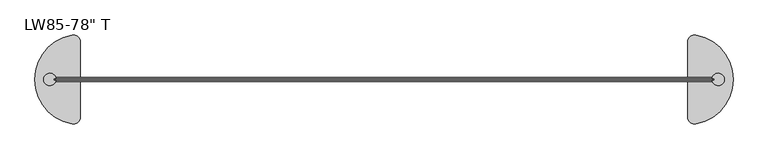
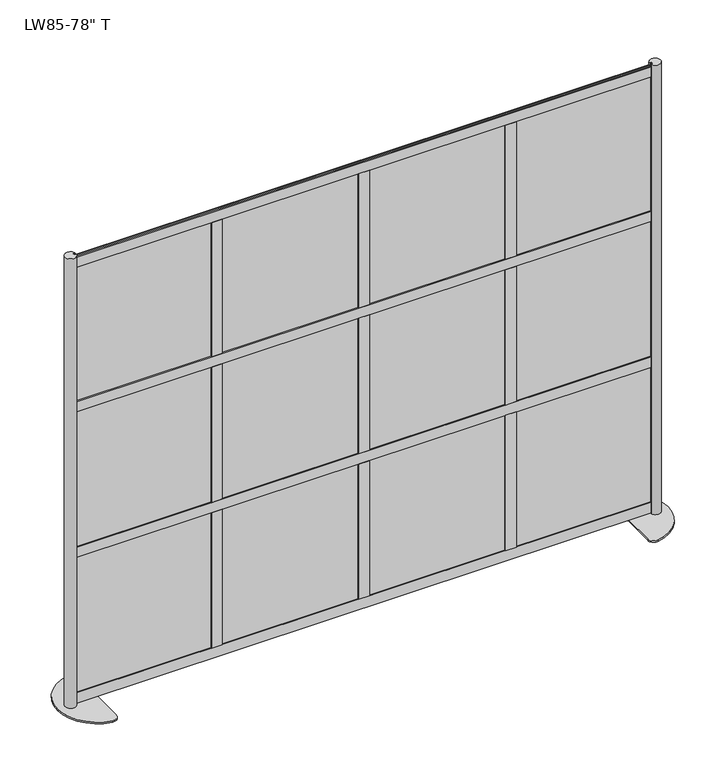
"""IFC4 building model written with IfcOpenShell, lengths in millimetres: furniture geometry."""

from ifc_helpers import new_model, si_unit, point, frame, frame_2d, origin, origin_with_axes, place, context, project, spatial, polyline, circle_curve, trimmed, segment, composite_curve, outline, extrude, source, transform, mapped, element, save


def furniture_014495cd(model_context):
    return source(origin(), model_context, "Body", "SweptSolid", [
        extrude(outline(polyline([(625.9190822, 1.5875), (1203.769083, 1.5875), (1203.7689093, -1.5875), (625.9189085, -1.5875), (625.9190822, 1.5875)])), frame((0.0, 0.0, 49.2633), z_axis=(0.0, 0.0, 1.0), x_axis=(1.0, 0.0, 0.0)), (0.0, 0.0, 1.0), 608.965),
        extrude(outline(polyline([(625.9190822, 1.5875), (1203.769083, 1.5875), (1203.7689093, -1.5875), (625.9189085, -1.5875), (625.9190822, 1.5875)])), frame((0.0, 0.0, 689.2671), z_axis=(0.0, 0.0, 1.0), x_axis=(1.0, 0.0, 0.0)), (0.0, 0.0, 1.0), 608.965),
        extrude(outline(polyline([(20.1607445, 1.5875), (598.0107453, 1.5875), (598.0105716, -1.5875), (20.1605708, -1.5875), (20.1607445, 1.5875)])), frame((0.0, 0.0, 689.2671), z_axis=(0.0, 0.0, 1.0), x_axis=(1.0, 0.0, 0.0)), (0.0, 0.0, 1.0), 608.965),
        extrude(outline(polyline([(20.1607445, 1.5875), (598.0107453, 1.5875), (598.0105716, -1.5875), (20.1605708, -1.5875), (20.1607445, 1.5875)])), frame((0.0, 0.0, 49.2633), z_axis=(0.0, 0.0, 1.0), x_axis=(1.0, 0.0, 0.0)), (0.0, 0.0, 1.0), 608.965),
        extrude(outline(polyline([(-591.3759178, 1.5875), (-13.525917, 1.5875), (-13.5260907, -1.5875), (-591.3760915, -1.5875), (-591.3759178, 1.5875)])), frame((0.0, 0.0, 689.2671), z_axis=(0.0, 0.0, 1.0), x_axis=(1.0, 0.0, 0.0)), (0.0, 0.0, 1.0), 608.965),
        extrude(outline(polyline([(-591.3759178, 1.5875), (-13.525917, 1.5875), (-13.5260907, -1.5875), (-591.3760915, -1.5875), (-591.3759178, 1.5875)])), frame((0.0, 0.0, 49.2633), z_axis=(0.0, 0.0, 1.0), x_axis=(1.0, 0.0, 0.0)), (0.0, 0.0, 1.0), 608.965),
        extrude(outline(polyline([(625.9190822, 1.5875), (1203.769083, 1.5875), (1203.7689093, -1.5875), (625.9189085, -1.5875), (625.9190822, 1.5875)])), frame((0.0, 0.0, 1329.2709), z_axis=(0.0, 0.0, 1.0), x_axis=(1.0, 0.0, 0.0)), (0.0, 0.0, 1.0), 608.965),
        extrude(outline(polyline([(14.3824199, 1.5875), (592.2324207, 1.5875), (592.2322471, -1.5875), (14.3822462, -1.5875), (14.3824199, 1.5875)])), frame((0.0, 0.0, 1329.2709), z_axis=(0.0, 0.0, 1.0), x_axis=(1.0, 0.0, 0.0)), (0.0, 0.0, 1.0), 608.965),
        extrude(outline(polyline([(-597.1542424, 1.5875), (-19.3042416, 1.5875), (-19.3044152, -1.5875), (-597.1544161, -1.5875), (-597.1542424, 1.5875)])), frame((0.0, 0.0, 1329.2709), z_axis=(0.0, 0.0, 1.0), x_axis=(1.0, 0.0, 0.0)), (0.0, 0.0, 1.0), 608.965),
        extrude(outline(polyline([(-1202.9125801, 1.5875), (-625.0625793, 1.5875), (-625.0627529, -1.5875), (-1202.9127538, -1.5875), (-1202.9125801, 1.5875)])), frame((0.0, 0.0, 1329.2709), z_axis=(0.0, 0.0, 1.0), x_axis=(1.0, 0.0, 0.0)), (0.0, 0.0, 1.0), 608.965),
        extrude(outline(polyline([(-1202.9125801, 1.5875), (-625.0625793, 1.5875), (-625.0627529, -1.5875), (-1202.9127538, -1.5875), (-1202.9125801, 1.5875)])), frame((0.0, 0.0, 689.2671), z_axis=(0.0, 0.0, 1.0), x_axis=(1.0, 0.0, 0.0)), (0.0, 0.0, 1.0), 608.965),
        extrude(outline(polyline([(-1202.9125801, 1.5875), (-625.0625793, 1.5875), (-625.0627529, -1.5875), (-1202.9127538, -1.5875), (-1202.9125801, 1.5875)])), frame((0.0, 0.0, 49.2633), z_axis=(0.0, 0.0, 1.0), x_axis=(1.0, 0.0, 0.0)), (0.0, 0.0, 1.0), 608.965),
        extrude(outline(polyline([(22.6314, 3.556), (15.5194, 3.556), (15.5194, -3.556), (22.6314, -3.556), (22.6314, -7.6327), (-22.6314, -7.6327), (-22.6314, -3.556), (-15.5194, -3.556), (-15.5194, 3.556), (-22.6314, 3.556), (-22.6314, 7.6327), (22.6314, 7.6327), (22.6314, 3.556)])), frame((0.0, 0.0, 1336.3829), z_axis=(0.0, 0.0, 1.0), x_axis=(1.0, 0.0, 0.0)), (0.0, 0.0, 1.0), 589.75625),
        extrude(outline(polyline([(22.6314, 3.556), (15.5194, 3.556), (15.5194, -3.556), (22.6314, -3.556), (22.6314, -7.6327), (-22.6314, -7.6327), (-22.6314, -3.556), (-15.5194, -3.556), (-15.5194, 3.556), (-22.6314, 3.556), (-22.6314, 7.6327), (22.6314, 7.6327), (22.6314, 3.556)])), frame((0.0, 0.0, 56.3753), z_axis=(0.0, 0.0, 1.0), x_axis=(1.0, 0.0, 0.0)), (0.0, 0.0, 1.0), 594.741),
        extrude(outline(polyline([(22.6314, 3.556), (15.5194, 3.556), (15.5194, -3.556), (22.6314, -3.556), (22.6314, -7.6327), (-22.6314, -7.6327), (-22.6314, -3.556), (-15.5194, -3.556), (-15.5194, 3.556), (-22.6314, 3.556), (-22.6314, 7.6327), (22.6314, 7.6327), (22.6314, 3.556)])), frame((0.0, 0.0, 696.3791), z_axis=(0.0, 0.0, 1.0), x_axis=(1.0, 0.0, 0.0)), (0.0, 0.0, 1.0), 594.741),
        extrude(outline(polyline([(634.1680623, 3.556), (627.0560623, 3.556), (627.0560623, -3.556), (634.1680623, -3.556), (634.1680623, -7.6327), (588.9052623, -7.6327), (588.9052623, -3.556), (596.0172623, -3.556), (596.0172623, 3.556), (588.9052623, 3.556), (588.9052623, 7.6327), (634.1680623, 7.6327), (634.1680623, 3.556)])), frame((0.0, 0.0, 696.3791), z_axis=(0.0, 0.0, 1.0), x_axis=(1.0, 0.0, 0.0)), (0.0, 0.0, 1.0), 594.741),
        extrude(outline(polyline([(634.1680623, 3.556), (627.0560623, 3.556), (627.0560623, -3.556), (634.1680623, -3.556), (634.1680623, -7.6327), (588.9052623, -7.6327), (588.9052623, -3.556), (596.0172623, -3.556), (596.0172623, 3.556), (588.9052623, 3.556), (588.9052623, 7.6327), (634.1680623, 7.6327), (634.1680623, 3.556)])), frame((0.0, 0.0, 56.3753), z_axis=(0.0, 0.0, 1.0), x_axis=(1.0, 0.0, 0.0)), (0.0, 0.0, 1.0), 594.741),
        extrude(outline(polyline([(634.1680623, 3.556), (627.0560623, 3.556), (627.0560623, -3.556), (634.1680623, -3.556), (634.1680623, -7.6327), (588.9052623, -7.6327), (588.9052623, -3.556), (596.0172623, -3.556), (596.0172623, 3.556), (588.9052623, 3.556), (588.9052623, 7.6327), (634.1680623, 7.6327), (634.1680623, 3.556)])), frame((0.0, 0.0, 1336.3829), z_axis=(0.0, 0.0, 1.0), x_axis=(1.0, 0.0, 0.0)), (0.0, 0.0, 1.0), 589.75625),
        extrude(outline(polyline([(-634.1680623, 3.556), (-634.1680623, 7.6327), (-588.9052623, 7.6327), (-588.9052623, 3.556), (-596.0172623, 3.556), (-596.0172623, -3.556), (-588.9052623, -3.556), (-588.9052623, -7.6327), (-634.1680623, -7.6327), (-634.1680623, -3.556), (-627.0560623, -3.556), (-627.0560623, 3.556), (-634.1680623, 3.556)])), frame((0.0, 0.0, 1336.3829), z_axis=(0.0, 0.0, 1.0), x_axis=(1.0, 0.0, 0.0)), (0.0, 0.0, 1.0), 589.75625),
        extrude(outline(polyline([(-634.1680623, 3.556), (-634.1680623, 7.6327), (-588.9052623, 7.6327), (-588.9052623, 3.556), (-596.0172623, 3.556), (-596.0172623, -3.556), (-588.9052623, -3.556), (-588.9052623, -7.6327), (-634.1680623, -7.6327), (-634.1680623, -3.556), (-627.0560623, -3.556), (-627.0560623, 3.556), (-634.1680623, 3.556)])), frame((0.0, 0.0, 696.3791), z_axis=(0.0, 0.0, 1.0), x_axis=(1.0, 0.0, 0.0)), (0.0, 0.0, 1.0), 594.741),
        extrude(outline(polyline([(-634.1680623, 3.556), (-634.1680623, 7.6327), (-588.9052623, 7.6327), (-588.9052623, 3.556), (-596.0172623, 3.556), (-596.0172623, -3.556), (-588.9052623, -3.556), (-588.9052623, -7.6327), (-634.1680623, -7.6327), (-634.1680623, -3.556), (-627.0560623, -3.556), (-627.0560623, 3.556), (-634.1680623, 3.556)])), frame((0.0, 0.0, 56.3753), z_axis=(0.0, 0.0, 1.0), x_axis=(1.0, 0.0, 0.0)), (0.0, 0.0, 1.0), 594.741),
        extrude(outline(polyline([(3.556, 651.1163), (3.556, 658.2283), (-3.556, 658.2283), (-3.556, 651.1163), (-7.6327, 651.1163), (-7.6327, 696.3791), (-3.556, 696.3791), (-3.556, 689.2671), (3.556, 689.2671), (3.556, 696.3791), (7.6327, 696.3791), (7.6327, 651.1163), (3.556, 651.1163)])), frame((-1194.5874, 0.0, 0.0), z_axis=(1.0, 0.0, 0.0), x_axis=(0.0, 1.0, 0.0)), (0.0, 0.0, 1.0), 2389.1748),
        extrude(outline(polyline([(3.556, 1291.1201), (3.556, 1298.2321), (-3.556, 1298.2321), (-3.556, 1291.1201), (-7.6327, 1291.1201), (-7.6327, 1336.3829), (-3.556, 1336.3829), (-3.556, 1329.2709), (3.556, 1329.2709), (3.556, 1336.3829), (7.6327, 1336.3829), (7.6327, 1291.1201), (3.556, 1291.1201)])), frame((-1194.5874, 0.0, 0.0), z_axis=(1.0, 0.0, 0.0), x_axis=(0.0, 1.0, 0.0)), (0.0, 0.0, 1.0), 2389.1748),
        extrude(outline(polyline([(3.556, 11.1125), (3.556, 18.2245), (-3.556, 18.2245), (-3.556, 11.1125), (-7.6327, 11.1125), (-7.6327, 56.3753), (-3.556, 56.3753), (-3.556, 49.2633), (3.556, 49.2633), (3.556, 56.3753), (7.6327, 56.3753), (7.6327, 11.1125), (3.556, 11.1125)])), frame((-1194.6636, 0.0, 0.0), z_axis=(1.0, 0.0, 0.0), x_axis=(0.0, 1.0, 0.0)), (0.0, 0.0, 1.0), 2389.3272),
        extrude(outline(polyline([(3.556, 1926.1200292), (3.556, 1933.2320292), (-3.556, 1933.2320292), (-3.556, 1926.1200292), (-7.6327, 1926.1200292), (-7.6327, 1971.3828292), (-3.556, 1971.3828292), (-3.556, 1964.2708292), (3.556, 1964.2708292), (3.556, 1971.3828292), (7.6327, 1971.3828292), (7.6327, 1926.1200292), (3.556, 1926.1200292)])), frame((-1194.6636, 0.0, 0.0), z_axis=(1.0, 0.0, 0.0), x_axis=(0.0, 1.0, 0.0)), (0.0, 0.0, 1.0), 2389.3272),
        extrude(outline(composite_curve([segment(polyline([(1194.6636, -7.7568093), (1194.6636, -3.556), (1201.7756, -3.556), (1201.7756, 3.556), (1194.6636, 3.556), (1194.6636, 7.7568093)]), True, "CONTINUOUS"), segment(trimmed(circle_curve(frame_2d((1215.7665837, 0.0)), 22.4834163), [point((1194.6636, 7.7568093))], [point((1194.6636, -7.7568093))], False, "CARTESIAN"), True, "CONTINUOUS")], self_intersect=False)), frame((0.0, 0.0, 6.35), z_axis=(0.0, 0.0, 1.0), x_axis=(1.0, 0.0, 0.0)), (0.0, 0.0, 1.0), 1974.85),
        extrude(outline(composite_curve([segment(polyline([(1104.9, -137.3715036), (1104.9, 137.3715036)]), True, "CONTINUOUS"), segment(trimmed(circle_curve(frame_2d((1130.3, 137.3715036)), 25.4), [point((1104.9, 137.3715036))], [point((1134.9181818, 162.3481406))], False, "CARTESIAN"), True, "CONTINUOUS"), segment(trimmed(circle_curve(frame_2d((1104.9, 0.0)), 165.1), [point((1134.9181818, 162.3481406))], [point((1270.0, 0.0))], False, "CARTESIAN"), True, "CONTINUOUS"), segment(trimmed(circle_curve(frame_2d((1104.9, 0.0)), 165.1), [point((1270.0, 0.0))], [point((1134.9181818, -162.3481406))], False, "CARTESIAN"), True, "CONTINUOUS"), segment(trimmed(circle_curve(frame_2d((1130.3, -137.3715036)), 25.4), [point((1134.9181818, -162.3481406))], [point((1104.9, -137.3715036))], False, "CARTESIAN"), True, "CONTINUOUS")], self_intersect=False)), origin_with_axes(), (0.0, 0.0, 1.0), 6.35),
        extrude(outline(composite_curve([segment(trimmed(circle_curve(frame_2d((-1215.7665837, 0.0)), 22.4834163), [point((-1194.6636, -7.7568093))], [point((-1194.6636, 7.7568093))], False, "CARTESIAN"), True, "CONTINUOUS"), segment(polyline([(-1194.6636, 7.7568093), (-1194.6636, 3.556), (-1201.7756, 3.556), (-1201.7756, -3.556), (-1194.6636, -3.556), (-1194.6636, -7.7568093)]), True, "CONTINUOUS")], self_intersect=False)), frame((0.0, 0.0, 6.35), z_axis=(0.0, 0.0, 1.0), x_axis=(1.0, 0.0, 0.0)), (0.0, 0.0, 1.0), 1974.85),
        extrude(outline(composite_curve([segment(trimmed(circle_curve(frame_2d((-1130.3, -137.3715036)), 25.4), [point((-1104.9, -137.3715036))], [point((-1134.9181818, -162.3481406))], False, "CARTESIAN"), True, "CONTINUOUS"), segment(trimmed(circle_curve(frame_2d((-1104.9, 0.0)), 165.1), [point((-1134.9181818, -162.3481406))], [point((-1270.0, 0.0))], False, "CARTESIAN"), True, "CONTINUOUS"), segment(trimmed(circle_curve(frame_2d((-1104.9, 0.0)), 165.1), [point((-1270.0, 0.0))], [point((-1134.9181818, 162.3481406))], False, "CARTESIAN"), True, "CONTINUOUS"), segment(trimmed(circle_curve(frame_2d((-1130.3, 137.3715036)), 25.4), [point((-1134.9181818, 162.3481406))], [point((-1104.9, 137.3715036))], False, "CARTESIAN"), True, "CONTINUOUS"), segment(polyline([(-1104.9, 137.3715036), (-1104.9, -137.3715036)]), True, "CONTINUOUS")], self_intersect=False)), origin_with_axes(), (0.0, 0.0, 1.0), 6.35),
    ])


if __name__ == "__main__":
    model = new_model("IFC4")
    model_context = context("Model", 3, world=origin())
    ifc_project = project(units=[si_unit("LENGTHUNIT", "METRE", prefix="MILLI")], contexts=[model_context])
    site = spatial("IfcSite", under=ifc_project)
    building = spatial("IfcBuilding", under=site)
    placement = place(None, origin())
    furniture_shape = furniture_014495cd(model_context)
    element("IfcFurniture", 1, ObjectType="Loft_Wall-Framewall-100 : LW85-78\" T", at=placement, inside=building, context=model_context, shape_type="MappedRepresentation", body=[
        mapped(furniture_shape, transform((0.0, 0.0, 0.0), x_axis=(1.0, 0.0, 0.0), y_axis=(0.0, 1.0, 0.0), z_axis=(0.0, 0.0, 1.0))),
    ])
    save(model, "model.ifc")
